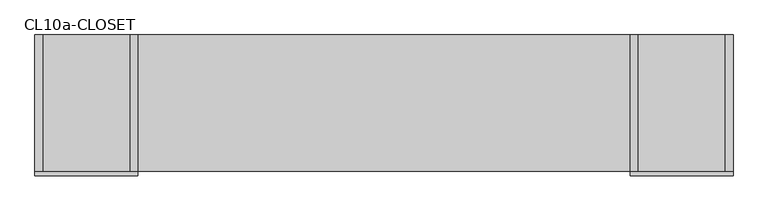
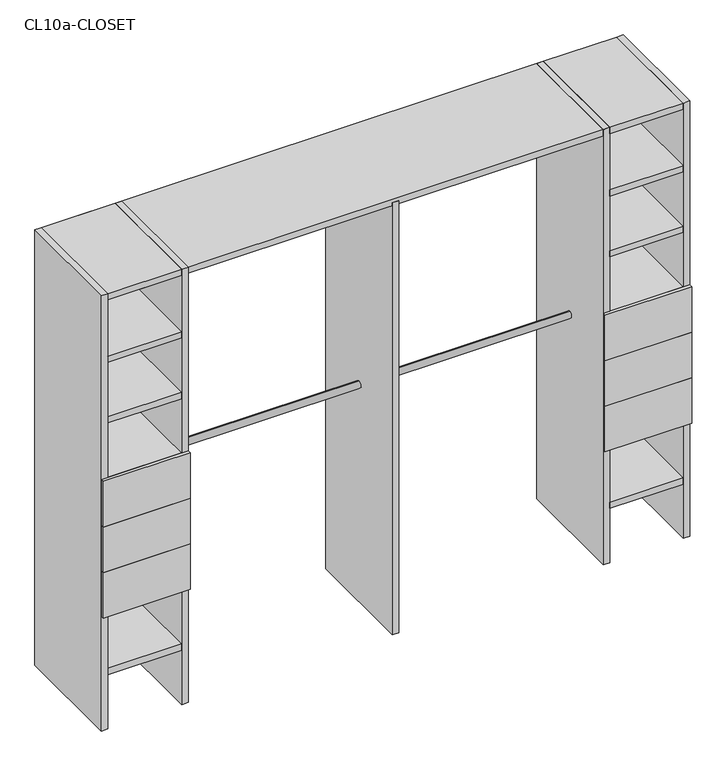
"""IFC4 building model written with IfcOpenShell, lengths in millimetres: furniture geometry, Closet 2estantes-2tubos-centro_sin lateral : CL10a-CLOSET."""

from ifc_helpers import new_model, si_unit, point, frame, frame_2d, origin, origin_with_axes, place, context, project, spatial, polyline, circle_curve, trimmed, segment, composite_curve, outline, extrude, source, transform, mapped, element, save


def cl10a_closet_4632c41f(model_context):
    return source(origin(), model_context, "Body", "SweptSolid", [
        extrude(outline(polyline([(-1991.3752666, 100.0), (-2020.0, 100.0), (-2020.0, 600.0), (-1991.3752666, 600.0), (-1991.3752666, 100.0)])), origin_with_axes(), (0.0, 0.0, 1.0), 2000.0),
        extrude(outline(polyline([(-1075.6876333, 100.0), (-1104.3123667, 100.0), (-1104.3123667, 600.0), (-1075.6876333, 600.0), (-1075.6876333, 100.0)])), origin_with_axes(), (0.0, 0.0, 1.0), 1985.0),
        extrude(outline(polyline([(-2340.0, 100.0), (-2368.6247334, 100.0), (-2368.6247334, 600.0), (-2340.0, 600.0), (-2340.0, 100.0)])), origin_with_axes(), (0.0, 0.0, 1.0), 2000.0),
        extrude(outline(polyline([(188.6247334, 100.0), (160.0, 100.0), (160.0, 600.0), (188.6247334, 600.0), (188.6247334, 100.0)])), origin_with_axes(), (0.0, 0.0, 1.0), 2000.0),
        extrude(outline(polyline([(-160.0, 100.0), (-188.6247334, 100.0), (-188.6247334, 600.0), (-160.0, 600.0), (-160.0, 100.0)])), origin_with_axes(), (0.0, 0.0, 1.0), 2000.0),
        extrude(outline(polyline([(-2368.6247334, 85.0), (-2368.6247334, 100.0), (-1991.3752666, 100.0), (-1991.3752666, 85.0), (-2368.6247334, 85.0)])), frame((0.0, 0.0, 946.7910447), z_axis=(0.0, 0.0, 1.0), x_axis=(1.0, 0.0, 0.0)), (0.0, 0.0, 1.0), 209.0831556),
        extrude(outline(polyline([(-2368.6247334, 85.0), (-2368.6247334, 100.0), (-1991.3752666, 100.0), (-1991.3752666, 85.0), (-2368.6247334, 85.0)])), frame((0.0, 0.0, 737.7078891), z_axis=(0.0, 0.0, 1.0), x_axis=(1.0, 0.0, 0.0)), (0.0, 0.0, 1.0), 209.0831556),
        extrude(outline(polyline([(-2368.6247334, 85.0), (-2368.6247334, 100.0), (-1991.3752666, 100.0), (-1991.3752666, 85.0), (-2368.6247334, 85.0)])), frame((0.0, 0.0, 528.6247334), z_axis=(0.0, 0.0, 1.0), x_axis=(1.0, 0.0, 0.0)), (0.0, 0.0, 1.0), 209.0831556),
        extrude(outline(polyline([(-2020.0, 100.0), (-2340.0, 100.0), (-2340.0, 600.0), (-2020.0, 600.0), (-2020.0, 100.0)])), frame((0.0, 0.0, 1127.2494669), z_axis=(0.0, 0.0, 1.0), x_axis=(1.0, 0.0, 0.0)), (0.0, 0.0, 1.0), 28.6247334),
        extrude(outline(polyline([(-2020.0, 100.0), (-2340.0, 100.0), (-2340.0, 600.0), (-2020.0, 600.0), (-2020.0, 100.0)])), frame((0.0, 0.0, 250.0), z_axis=(0.0, 0.0, 1.0), x_axis=(1.0, 0.0, 0.0)), (0.0, 0.0, 1.0), 28.6247334),
        extrude(outline(polyline([(-2020.0, 100.0), (-2340.0, 100.0), (-2340.0, 600.0), (-2020.0, 600.0), (-2020.0, 100.0)])), frame((0.0, 0.0, 528.6247334), z_axis=(0.0, 0.0, 1.0), x_axis=(1.0, 0.0, 0.0)), (0.0, 0.0, 1.0), 28.6247334),
        extrude(outline(polyline([(-2020.0, 100.0), (-2340.0, 100.0), (-2340.0, 600.0), (-2020.0, 600.0), (-2020.0, 100.0)])), frame((0.0, 0.0, 1405.8742003), z_axis=(0.0, 0.0, 1.0), x_axis=(1.0, 0.0, 0.0)), (0.0, 0.0, 1.0), 28.6247334),
        extrude(outline(polyline([(-2020.0, 100.0), (-2340.0, 100.0), (-2340.0, 600.0), (-2020.0, 600.0), (-2020.0, 100.0)])), frame((0.0, 0.0, 1684.4989337), z_axis=(0.0, 0.0, 1.0), x_axis=(1.0, 0.0, 0.0)), (0.0, 0.0, 1.0), 28.6247334),
        extrude(outline(polyline([(-2020.0, 100.0), (-2340.0, 100.0), (-2340.0, 600.0), (-2020.0, 600.0), (-2020.0, 100.0)])), frame((0.0, 0.0, 1971.3752666), z_axis=(0.0, 0.0, 1.0), x_axis=(1.0, 0.0, 0.0)), (0.0, 0.0, 1.0), 28.6247334),
        extrude(outline(polyline([(188.6247334, 100.0), (188.6247334, 85.0), (-188.6247334, 85.0), (-188.6247334, 100.0), (188.6247334, 100.0)])), frame((0.0, 0.0, 946.7910447), z_axis=(0.0, 0.0, 1.0), x_axis=(1.0, 0.0, 0.0)), (0.0, 0.0, 1.0), 209.0831556),
        extrude(outline(polyline([(188.6247334, 100.0), (188.6247334, 85.0), (-188.6247334, 85.0), (-188.6247334, 100.0), (188.6247334, 100.0)])), frame((0.0, 0.0, 737.7078891), z_axis=(0.0, 0.0, 1.0), x_axis=(1.0, 0.0, 0.0)), (0.0, 0.0, 1.0), 209.0831556),
        extrude(outline(polyline([(188.6247334, 100.0), (188.6247334, 85.0), (-188.6247334, 85.0), (-188.6247334, 100.0), (188.6247334, 100.0)])), frame((0.0, 0.0, 528.6247334), z_axis=(0.0, 0.0, 1.0), x_axis=(1.0, 0.0, 0.0)), (0.0, 0.0, 1.0), 209.0831556),
        extrude(outline(polyline([(160.0, 100.0), (-160.0, 100.0), (-160.0, 600.0), (160.0, 600.0), (160.0, 100.0)])), frame((0.0, 0.0, 1127.2494669), z_axis=(0.0, 0.0, 1.0), x_axis=(1.0, 0.0, 0.0)), (0.0, 0.0, 1.0), 28.6247334),
        extrude(outline(composite_curve([segment(trimmed(circle_curve(frame_2d((350.0, 1000.0)), 15.0), [point((350.0, 1015.0))], [point((350.0, 985.0))], False, "CARTESIAN"), True, "CONTINUOUS"), segment(trimmed(circle_curve(frame_2d((350.0, 1000.0)), 15.0), [point((350.0, 985.0))], [point((350.0, 1015.0))], False, "CARTESIAN"), True, "CONTINUOUS")], self_intersect=False)), frame((-1991.3752666, 0.0, 0.0), z_axis=(1.0, 0.0, 0.0), x_axis=(0.0, 1.0, 0.0)), (0.0, 0.0, 1.0), 1802.7505331),
        extrude(outline(composite_curve([segment(trimmed(circle_curve(frame_2d((350.0, 1800.0)), 15.0), [point((350.0, 1815.0))], [point((350.0, 1785.0))], False, "CARTESIAN"), True, "CONTINUOUS"), segment(trimmed(circle_curve(frame_2d((350.0, 1800.0)), 15.0), [point((350.0, 1785.0))], [point((350.0, 1815.0))], False, "CARTESIAN"), True, "CONTINUOUS")], self_intersect=False)), frame((-1991.3752666, 0.0, 0.0), z_axis=(1.0, 0.0, 0.0), x_axis=(0.0, 1.0, 0.0)), (0.0, 0.0, 1.0), 1802.7505331),
        extrude(outline(polyline([(160.0, 100.0), (-160.0, 100.0), (-160.0, 600.0), (160.0, 600.0), (160.0, 100.0)])), frame((0.0, 0.0, 250.0), z_axis=(0.0, 0.0, 1.0), x_axis=(1.0, 0.0, 0.0)), (0.0, 0.0, 1.0), 28.6247334),
        extrude(outline(polyline([(160.0, 100.0), (-160.0, 100.0), (-160.0, 600.0), (160.0, 600.0), (160.0, 100.0)])), frame((0.0, 0.0, 528.6247334), z_axis=(0.0, 0.0, 1.0), x_axis=(1.0, 0.0, 0.0)), (0.0, 0.0, 1.0), 28.6247334),
        extrude(outline(polyline([(160.0, 100.0), (-160.0, 100.0), (-160.0, 600.0), (160.0, 600.0), (160.0, 100.0)])), frame((0.0, 0.0, 1405.8742003), z_axis=(0.0, 0.0, 1.0), x_axis=(1.0, 0.0, 0.0)), (0.0, 0.0, 1.0), 28.6247334),
        extrude(outline(polyline([(160.0, 100.0), (-160.0, 100.0), (-160.0, 600.0), (160.0, 600.0), (160.0, 100.0)])), frame((0.0, 0.0, 1684.4989337), z_axis=(0.0, 0.0, 1.0), x_axis=(1.0, 0.0, 0.0)), (0.0, 0.0, 1.0), 28.6247334),
        extrude(outline(polyline([(-160.0, 100.0), (-2340.0, 100.0), (-2340.0, 600.0), (-160.0, 600.0), (-160.0, 100.0)])), frame((0.0, 0.0, 1971.3752666), z_axis=(0.0, 0.0, 1.0), x_axis=(1.0, 0.0, 0.0)), (0.0, 0.0, 1.0), 28.6247334),
        extrude(outline(polyline([(160.0, 100.0), (-160.0, 100.0), (-160.0, 600.0), (160.0, 600.0), (160.0, 100.0)])), frame((0.0, 0.0, 1971.3752666), z_axis=(0.0, 0.0, 1.0), x_axis=(1.0, 0.0, 0.0)), (0.0, 0.0, 1.0), 28.6247334),
    ])


if __name__ == "__main__":
    model = new_model("IFC4")
    model_context = context("Model", 3, world=origin())
    ifc_project = project(units=[si_unit("LENGTHUNIT", "METRE", prefix="MILLI")], contexts=[model_context])
    site = spatial("IfcSite", under=ifc_project)
    building = spatial("IfcBuilding", under=site)
    placement = place(None, origin())
    cl10a_closet_shape = cl10a_closet_4632c41f(model_context)
    element("IfcFurniture", 1, ObjectType="Closet 2estantes-2tubos-centro_sin lateral : CL10a-CLOSET", at=placement, inside=building, context=model_context, shape_type="MappedRepresentation", body=[
        mapped(cl10a_closet_shape, transform((0.0, 0.0, 0.0), x_axis=(1.0, 0.0, 0.0), y_axis=(0.0, 1.0, 0.0), z_axis=(0.0, 0.0, 1.0))),
    ])
    save(model, "model.ifc")
